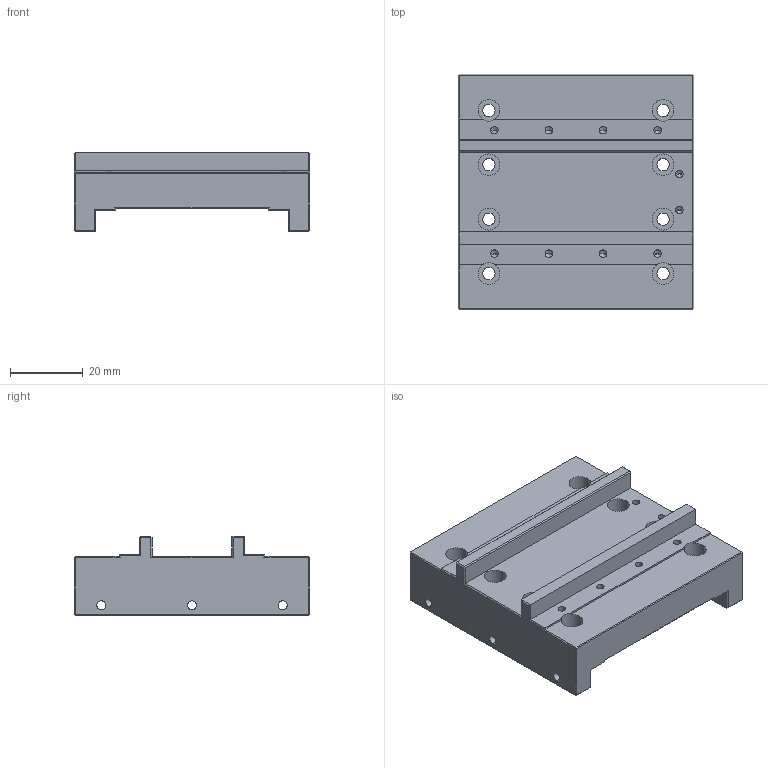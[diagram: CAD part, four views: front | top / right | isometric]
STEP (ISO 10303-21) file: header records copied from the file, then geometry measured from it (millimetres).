
FILE_DESCRIPTION (( 'STEP AP214' ), '1' );
FILE_NAME ('錨璃2.STEP', '2026-03-13T05:20:05', ( '' ), ( '' ), 'SwSTEP 2.0', 'SolidWorks 2024', '' );
FILE_SCHEMA (( 'AUTOMOTIVE_DESIGN' ));
Length unit declared in the file: millimetre
Products named in the file (1): 零件2
Bounding box: 65 x 65 x 21.8 mm (x, y, z)
Volume: 48124.3 mm3; surface area: 16243 mm2
Topology: 1 solids, 1 shells, 212 faces, 514 edges, 292 vertices
Faces by surface type: plane 104, cylinder 76, cone 32
Entity records: 5941 total; most frequent: DIRECTION 1068, CARTESIAN_POINT 987, ORIENTED_EDGE 964, EDGE_CURVE 482, AXIS2_PLACEMENT_3D 373, LINE 322, VECTOR 322, VERTEX_POINT 292
